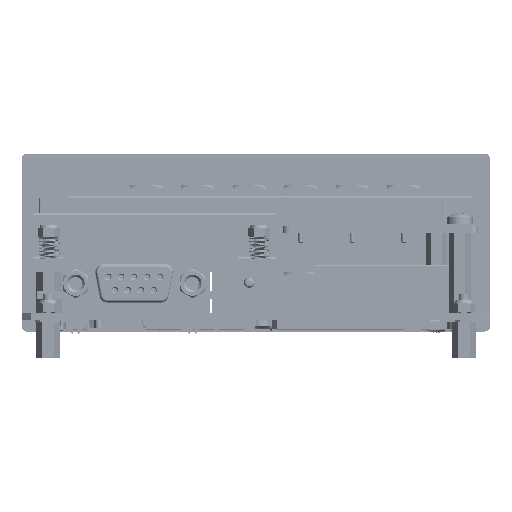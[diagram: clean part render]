
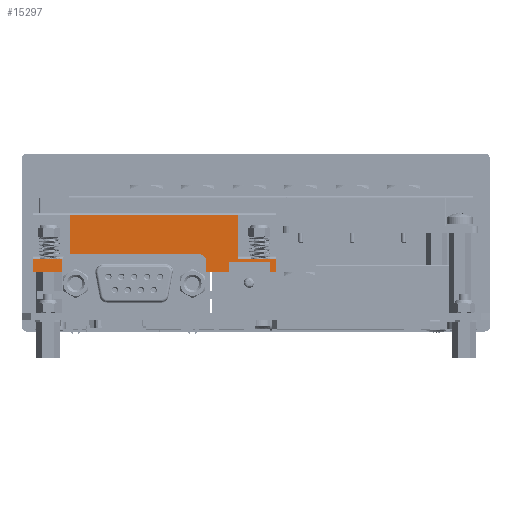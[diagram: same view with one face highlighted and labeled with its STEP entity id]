
A CAD part, left-side view. The second image highlights one B-rep face of the part: STEP entity #15297.
In plain terms, the highlighted planar face has unit normal (-1, 0, 0).
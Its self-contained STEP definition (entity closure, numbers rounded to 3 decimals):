
#15297=ADVANCED_FACE('',(#23796),#19236,.F.);
#19236=PLANE('',#108716);
#23796=FACE_OUTER_BOUND('',#29673,.T.);
#29673=EDGE_LOOP('',(#44615,#44616,#44617,#44618,#44619,#44620,#44621,#44622));
#44615=ORIENTED_EDGE('',*,*,#75327,.T.);
#44616=ORIENTED_EDGE('',*,*,#75341,.F.);
#44617=ORIENTED_EDGE('',*,*,#75342,.T.);
#44618=ORIENTED_EDGE('',*,*,#75343,.T.);
#44619=ORIENTED_EDGE('',*,*,#75323,.T.);
#44620=ORIENTED_EDGE('',*,*,#75207,.T.);
#44621=ORIENTED_EDGE('',*,*,#75344,.F.);
#44622=ORIENTED_EDGE('',*,*,#75345,.F.);
#64037=VERTEX_POINT('',#168796);
#64117=VERTEX_POINT('',#168956);
#64192=VERTEX_POINT('',#169181);
#64195=VERTEX_POINT('',#169187);
#64196=VERTEX_POINT('',#169189);
#64209=VERTEX_POINT('',#169217);
#64210=VERTEX_POINT('',#169219);
#64211=VERTEX_POINT('',#169222);
#75207=EDGE_CURVE('',#64037,#64117,#86848,.T.);
#75323=EDGE_CURVE('',#64192,#64037,#86938,.T.);
#75327=EDGE_CURVE('',#64196,#64195,#86942,.T.);
#75341=EDGE_CURVE('',#64209,#64195,#86956,.T.);
#75342=EDGE_CURVE('',#64209,#64210,#86957,.T.);
#75343=EDGE_CURVE('',#64210,#64192,#86958,.T.);
#75344=EDGE_CURVE('',#64211,#64117,#86959,.T.);
#75345=EDGE_CURVE('',#64196,#64211,#86960,.T.);
#86848=LINE('',#168957,#97652);
#86938=LINE('',#169180,#97742);
#86942=LINE('',#169188,#97746);
#86956=LINE('',#169216,#97760);
#86957=LINE('',#169218,#97761);
#86958=LINE('',#169220,#97762);
#86959=LINE('',#169221,#97763);
#86960=LINE('',#169223,#97764);
#97652=VECTOR('',#123708,1.);
#97742=VECTOR('',#123916,1.);
#97746=VECTOR('',#123920,1.);
#97760=VECTOR('',#123936,1.);
#97761=VECTOR('',#123937,1.);
#97762=VECTOR('',#123938,1.);
#97763=VECTOR('',#123939,1.);
#97764=VECTOR('',#123940,1.);
#108716=AXIS2_PLACEMENT_3D('',#169224,#123941,#123942);
#123708=DIRECTION('',(0.,-1.,0.));
#123916=DIRECTION('',(0.,0.,-1.));
#123920=DIRECTION('',(0.,0.,-1.));
#123936=DIRECTION('',(0.,-1.,0.));
#123937=DIRECTION('',(0.,0.,-1.));
#123938=DIRECTION('',(0.,-1.,0.));
#123939=DIRECTION('',(0.,0.,-1.));
#123940=DIRECTION('',(0.,-1.,0.));
#123941=DIRECTION('',(1.,0.,0.));
#123942=DIRECTION('',(0.,0.,-1.));
#168796=CARTESIAN_POINT('',(-16.439,4.807,-36.612));
#168956=CARTESIAN_POINT('',(-16.439,1.923,-36.612));
#168957=CARTESIAN_POINT('',(-16.439,4.807,-36.612));
#169180=CARTESIAN_POINT('',(-16.439,4.807,-36.612));
#169181=CARTESIAN_POINT('',(-16.439,4.807,-28.535));
#169187=CARTESIAN_POINT('',(-16.439,4.807,7.234));
#169188=CARTESIAN_POINT('',(-16.439,4.807,15.311));
#169189=CARTESIAN_POINT('',(-16.439,4.807,15.311));
#169216=CARTESIAN_POINT('',(-16.439,14.615,7.234));
#169217=CARTESIAN_POINT('',(-16.439,14.153,7.234));
#169218=CARTESIAN_POINT('',(-16.439,14.153,15.311));
#169219=CARTESIAN_POINT('',(-16.439,14.153,-28.535));
#169220=CARTESIAN_POINT('',(-16.439,14.615,-28.535));
#169221=CARTESIAN_POINT('',(-16.439,1.923,15.311));
#169222=CARTESIAN_POINT('',(-16.439,1.923,15.311));
#169223=CARTESIAN_POINT('',(-16.439,4.807,15.311));
#169224=CARTESIAN_POINT('',(-16.439,4.807,15.311));
